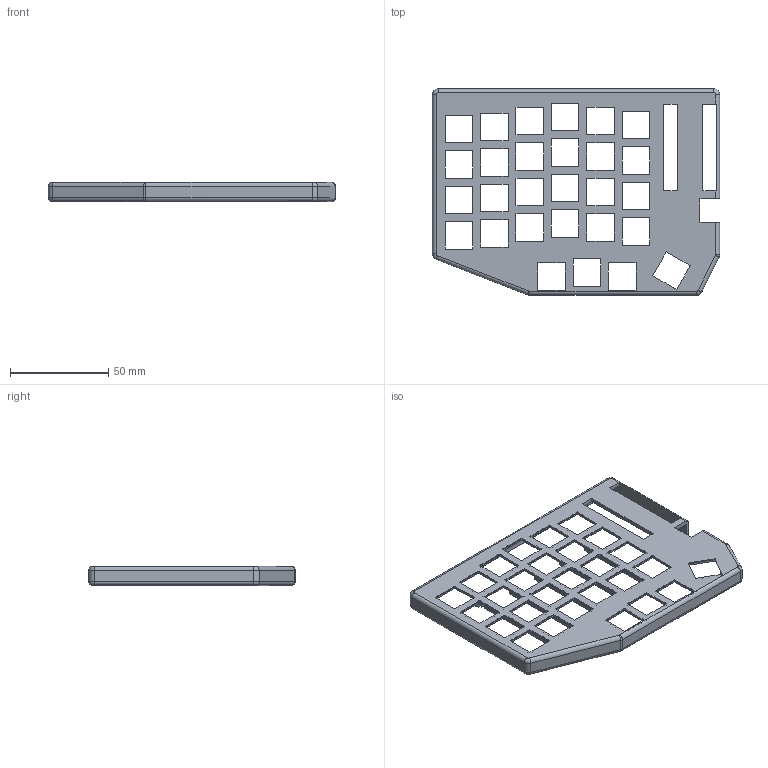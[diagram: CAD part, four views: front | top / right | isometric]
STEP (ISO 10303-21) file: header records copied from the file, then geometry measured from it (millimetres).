
FILE_DESCRIPTION(('Open CASCADE Model'),'2;1');
FILE_NAME('Open CASCADE Shape Model','2023-06-08T22:29:03',('Author'),( 'Open CASCADE'),'Open CASCADE STEP processor 7.4','Open CASCADE 7.4' ,'Unknown');
FILE_SCHEMA(('AUTOMOTIVE_DESIGN { 1 0 10303 214 1 1 1 1 }'));
Length unit declared in the file: millimetre
Products named in the file (1): Open CASCADE STEP translator 7.4 1
Bounding box: 146 x 105 x 9.7 mm (x, y, z)
Volume: 21799.9 mm3; surface area: 29781.3 mm2
Topology: 1 solids, 1 shells, 365 faces, 957 edges, 630 vertices
Faces by surface type: plane 308, cylinder 45, revolution 12
Full cylindrical faces by diameter (mm): 2 x4, 7 x2
Entity records: 23938 total; most frequent: CARTESIAN_POINT 5512, DIRECTION 3029, LINE 2050, VECTOR 2050, ORIENTED_EDGE 1914, PCURVE 1914, DEFINITIONAL_REPRESENTATION 1914, EDGE_CURVE 957
